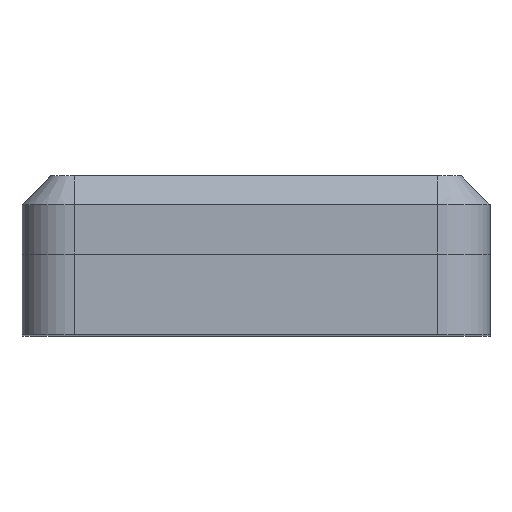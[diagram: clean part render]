
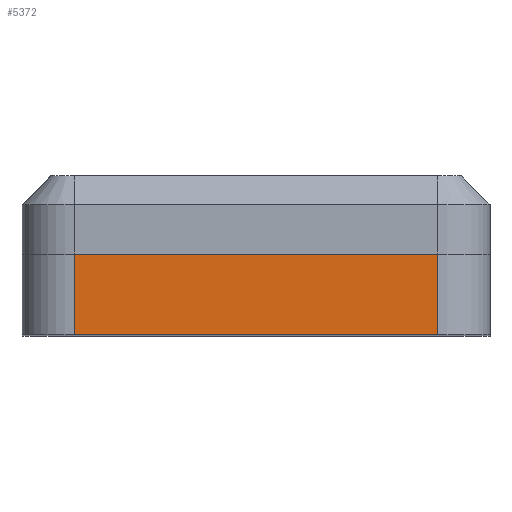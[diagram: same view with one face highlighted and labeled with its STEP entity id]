
A CAD part, top view. The second image highlights one B-rep face of the part: STEP entity #5372.
In plain terms, the highlighted planar face has unit normal (0, 0, 1) as drawn and (1, 0, 0) by its records, which use the part's own axes.
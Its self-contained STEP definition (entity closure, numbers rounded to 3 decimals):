
#128 = EDGE_CURVE ( 'NONE', #5561, #11755, #2086, .T. ) ;
#373 = DIRECTION ( 'NONE',  ( 0., 0., -1. ) ) ;
#1106 = LINE ( 'NONE', #7034, #5448 ) ;
#1566 = VECTOR ( 'NONE', #4860, 1000. ) ;
#2086 = LINE ( 'NONE', #4863, #1566 ) ;
#3556 = CARTESIAN_POINT ( 'NONE',  ( 72., 15.5, 34.9 ) ) ;
#4111 = CARTESIAN_POINT ( 'NONE',  ( 72., 17., -44.9 ) ) ;
#4860 = DIRECTION ( 'NONE',  ( 0., 0., -1. ) ) ;
#4863 = CARTESIAN_POINT ( 'NONE',  ( 72., 15.5, -44.9 ) ) ;
#5312 = ORIENTED_EDGE ( 'NONE', *, *, #6104, .T. ) ;
#5372 = ADVANCED_FACE ( 'NONE', ( #18565 ), #7611, .F. ) ;
#5448 = VECTOR ( 'NONE', #16590, 1000. ) ;
#5561 = VERTEX_POINT ( 'NONE', #3556 ) ;
#6077 = DIRECTION ( 'NONE',  ( -1., 0., 0. ) ) ;
#6090 = CARTESIAN_POINT ( 'NONE',  ( 72., 0., -34.9 ) ) ;
#6104 = EDGE_CURVE ( 'NONE', #18556, #11755, #14954, .T. ) ;
#7034 = CARTESIAN_POINT ( 'NONE',  ( 72., 17., 34.9 ) ) ;
#7611 = PLANE ( 'NONE',  #17466 ) ;
#7940 = VECTOR ( 'NONE', #9254, 1000. ) ;
#8303 = CARTESIAN_POINT ( 'NONE',  ( 72., 0., 34.9 ) ) ;
#8353 = ORIENTED_EDGE ( 'NONE', *, *, #15892, .T. ) ;
#9254 = DIRECTION ( 'NONE',  ( 0., 1., 0. ) ) ;
#9504 = CARTESIAN_POINT ( 'NONE',  ( 72., 15.5, -34.9 ) ) ;
#11645 = CARTESIAN_POINT ( 'NONE',  ( 72., 0., -44.9 ) ) ;
#11755 = VERTEX_POINT ( 'NONE', #9504 ) ;
#12499 = EDGE_CURVE ( 'NONE', #20495, #18556, #17326, .T. ) ;
#14954 = LINE ( 'NONE', #16734, #7940 ) ;
#15892 = EDGE_CURVE ( 'NONE', #5561, #20495, #1106, .T. ) ;
#16590 = DIRECTION ( 'NONE',  ( 0., -1., 0. ) ) ;
#16734 = CARTESIAN_POINT ( 'NONE',  ( 72., 17., -34.9 ) ) ;
#16834 = VECTOR ( 'NONE', #373, 1000. ) ;
#17012 = ORIENTED_EDGE ( 'NONE', *, *, #128, .F. ) ;
#17326 = LINE ( 'NONE', #11645, #16834 ) ;
#17466 = AXIS2_PLACEMENT_3D ( 'NONE', #4111, #6077, #20525 ) ;
#18556 = VERTEX_POINT ( 'NONE', #6090 ) ;
#18565 = FACE_OUTER_BOUND ( 'NONE', #19489, .T. ) ;
#18758 = ORIENTED_EDGE ( 'NONE', *, *, #12499, .T. ) ;
#19489 = EDGE_LOOP ( 'NONE', ( #17012, #8353, #18758, #5312 ) ) ;
#20495 = VERTEX_POINT ( 'NONE', #8303 ) ;
#20525 = DIRECTION ( 'NONE',  ( 0., 0., 1. ) ) ;
